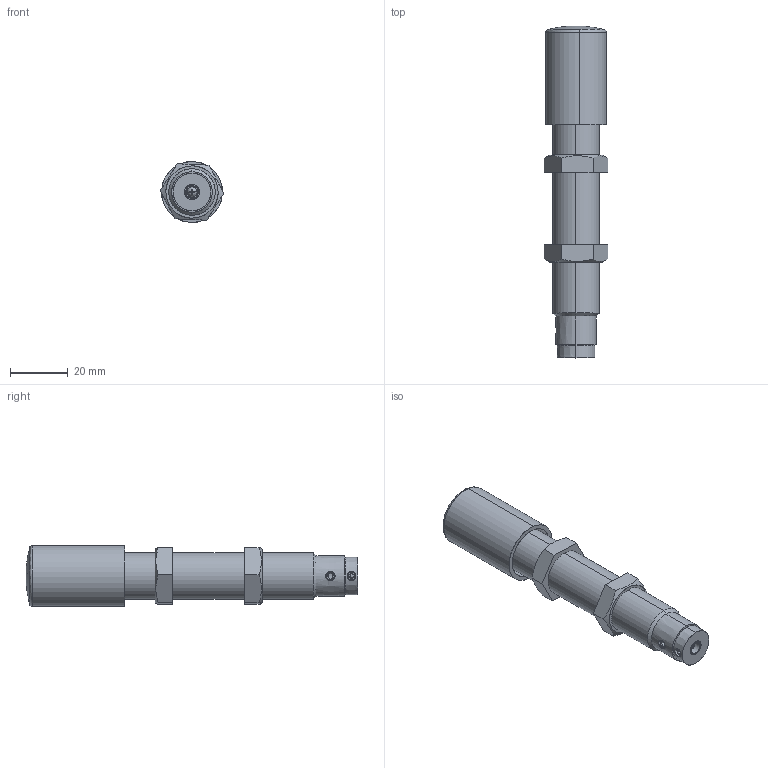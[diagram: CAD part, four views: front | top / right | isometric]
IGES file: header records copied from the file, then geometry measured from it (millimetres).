
Start section: SolidWorks IGES file using analytic representation for surfaces
Global section: file name: Y:\CAD\HP梡CAD僨乕僞\210305_HP峏怴梡\3D\FA-1612XB-C-060.IGS; native system: SolidWorks 2021; preprocessor: SolidWorks 2021; author: flgijutsu; date: 210310.145310; units: millimetre
Bounding box: 21.92 x 114.5 x 20.99 mm (x, y, z)
Surface area: 9713.4 mm2 (no closed solid volume)
Topology: 0 solids, 0 shells, 77 faces, 1192 edges, 1191 vertices
Faces by surface type: bspline 49, revolution 28
